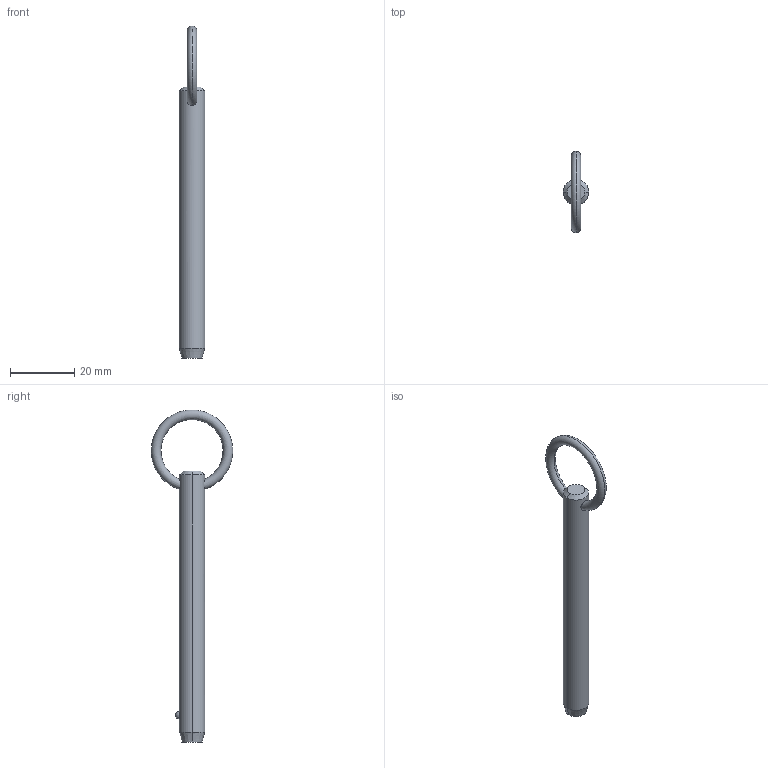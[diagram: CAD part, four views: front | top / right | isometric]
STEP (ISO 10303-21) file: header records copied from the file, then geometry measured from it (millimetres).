
FILE_DESCRIPTION (( 'STEP AP203' ), '1' );
FILE_NAME ('P1250.031-270.step', '2019-07-29T19:52:15', ( '' ), ( '' ), 'SwSTEP 2.0', 'SolidWorks 2017', '' );
FILE_SCHEMA (( 'CONFIG_CONTROL_DESIGN' ));
Length unit declared in the file: millimetre
Products named in the file (1): P1250.031-270
Bounding box: 7.93 x 25.36 x 103.51 mm (x, y, z)
Volume: 4572.5 mm3; surface area: 2739.8 mm2
Topology: 1 solids, 1 shells, 12 faces, 28 edges, 17 vertices
Faces by surface type: cone 4, torus 2, sphere 2, cylinder 2, plane 2
Entity records: 509 total; most frequent: CARTESIAN_POINT 176, DIRECTION 56, ORIENTED_EDGE 48, AXIS2_PLACEMENT_3D 25, EDGE_CURVE 24, EDGE_LOOP 15, VERTEX_POINT 15, CIRCLE 12
